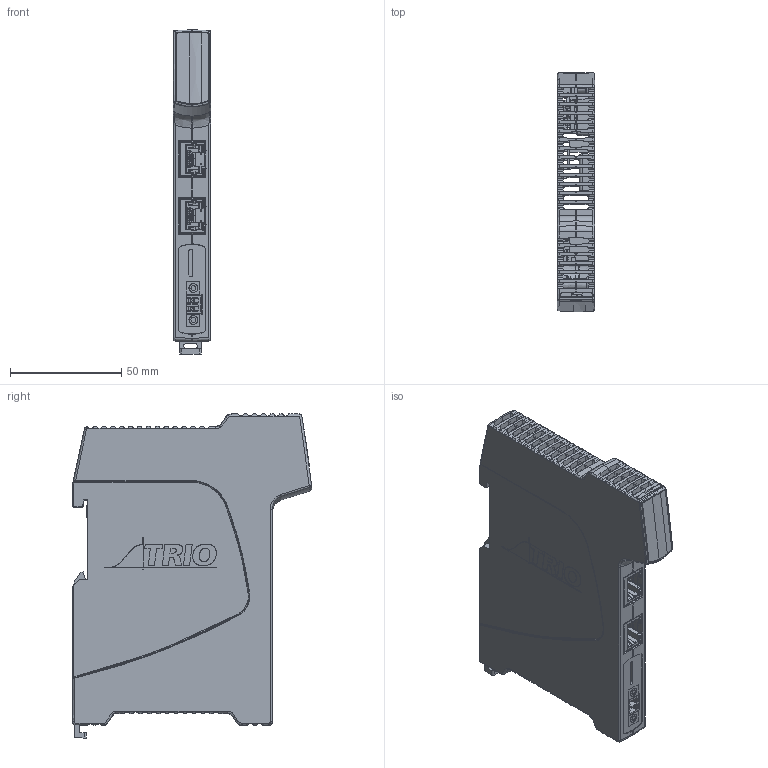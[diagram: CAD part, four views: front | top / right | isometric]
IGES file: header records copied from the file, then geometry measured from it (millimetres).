
Global section: file name: G:\Flex-6 Nano Assembly Solid\Flex-6 Nano Assembly Solid.igs; native system: Rhinoceros ( May 22 2017 ); preprocessor: Trout Lake IGES 012 May 22 2017; author: Trio-MK; date: 180426.104219; units: millimetre
Bounding box: 16.74 x 107.66 x 145.69 mm (x, y, z)
Surface area: 86195.4 mm2 (no closed solid volume)
Topology: 0 solids, 0 shells, 6532 faces, 40357 edges, 40324 vertices
Faces by surface type: bspline 6532
